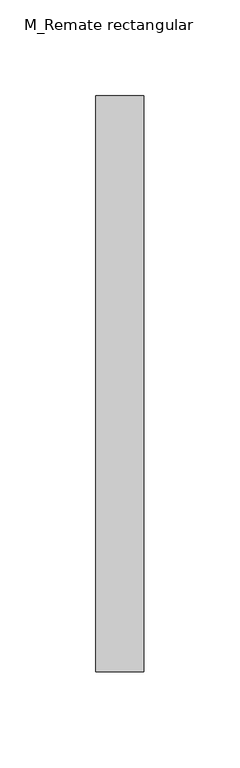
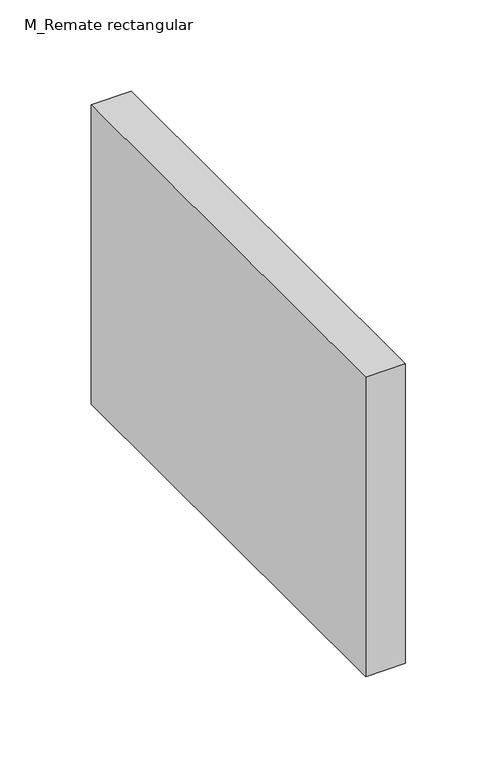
"""IFC4 building model written with IfcOpenShell, lengths in millimetres: duct fitting geometry, M_Remate rectangular : Estándar."""

from ifc_helpers import new_model, si_unit, frame, origin, place, context, project, spatial, polyline, outline, extrude, source, transform, mapped, element, save


def m_remate_rectangular_ec440387(model_context):
    return source(origin(), model_context, "Body", "SweptSolid", [
        extrude(outline(polyline([(0.0, -150.0), (0.0, 150.0), (25.0, 150.0), (25.0, -150.0), (0.0, -150.0)])), frame((0.0, 0.0, -100.0), z_axis=(0.0, 0.0, 1.0), x_axis=(1.0, 0.0, 0.0)), (0.0, 0.0, 1.0), 200.0),
    ])


if __name__ == "__main__":
    model = new_model("IFC4")
    model_context = context("Model", 3, world=origin())
    ifc_project = project(units=[si_unit("LENGTHUNIT", "METRE", prefix="MILLI")], contexts=[model_context])
    site = spatial("IfcSite", under=ifc_project)
    building = spatial("IfcBuilding", under=site)
    placement = place(None, origin())
    m_remate_rectangular_shape = m_remate_rectangular_ec440387(model_context)
    element("IfcDuctFitting", 1, ObjectType="M_Remate rectangular : Estándar", at=placement, inside=building, context=model_context, shape_type="MappedRepresentation", body=[
        mapped(m_remate_rectangular_shape, transform((0.0, 0.0, 0.0), x_axis=(1.0, 0.0, 0.0), y_axis=(0.0, 1.0, 0.0), z_axis=(0.0, 0.0, 1.0))),
    ])
    save(model, "model.ifc")
